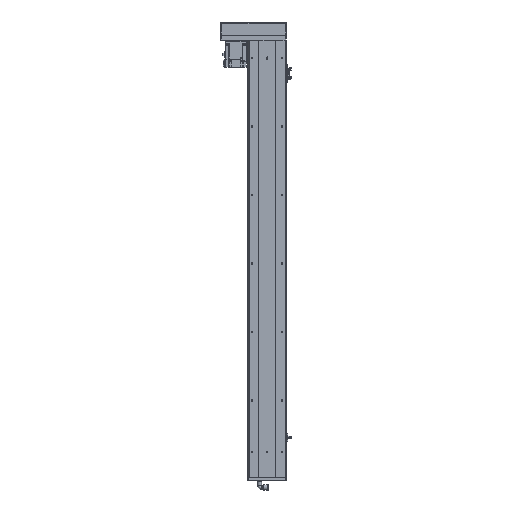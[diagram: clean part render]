
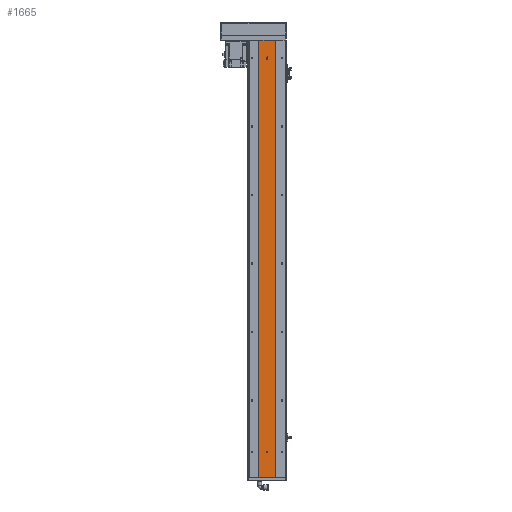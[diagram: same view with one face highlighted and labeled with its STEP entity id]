
A CAD part, top view. The second image highlights one B-rep face of the part: STEP entity #1665.
In plain terms, the highlighted planar face has unit normal (0, 0, 1).
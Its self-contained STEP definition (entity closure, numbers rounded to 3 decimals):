
#58 = DIRECTION ( 'NONE',  ( 1., 0., 0. ) ) ;
#922 = VERTEX_POINT ( 'NONE', #30408 ) ;
#965 = EDGE_LOOP ( 'NONE', ( #34112, #29538, #6565, #21685 ) ) ;
#1213 = VERTEX_POINT ( 'NONE', #9488 ) ;
#1322 = VERTEX_POINT ( 'NONE', #35203 ) ;
#1665 = ADVANCED_FACE ( 'NONE', ( #16048, #15148, #8383 ), #27553, .T. ) ;
#1697 = CARTESIAN_POINT ( 'NONE',  ( 24., -1277., 35.25 ) ) ;
#1736 = AXIS2_PLACEMENT_3D ( 'NONE', #30464, #21418, #9792 ) ;
#1880 = VECTOR ( 'NONE', #12832, 1000. ) ;
#1934 = DIRECTION ( 'NONE',  ( 0., 0., 1. ) ) ;
#3020 = CIRCLE ( 'NONE', #35998, 2.5 ) ;
#4135 = EDGE_CURVE ( 'NONE', #6456, #922, #32973, .T. ) ;
#4371 = EDGE_CURVE ( 'NONE', #5305, #1213, #35651, .T. ) ;
#4474 = EDGE_CURVE ( 'NONE', #27645, #1322, #14940, .T. ) ;
#4810 = VECTOR ( 'NONE', #7474, 1000. ) ;
#5305 = VERTEX_POINT ( 'NONE', #8634 ) ;
#6108 = LINE ( 'NONE', #26346, #25963 ) ;
#6176 = CARTESIAN_POINT ( 'NONE',  ( 24., -1277., 35.25 ) ) ;
#6456 = VERTEX_POINT ( 'NONE', #6768 ) ;
#6565 = ORIENTED_EDGE ( 'NONE', *, *, #16696, .T. ) ;
#6768 = CARTESIAN_POINT ( 'NONE',  ( -24., 0., 35.25 ) ) ;
#7255 = VECTOR ( 'NONE', #26161, 1000. ) ;
#7474 = DIRECTION ( 'NONE',  ( 0., 1., 0. ) ) ;
#7546 = AXIS2_PLACEMENT_3D ( 'NONE', #25113, #10473, #7589 ) ;
#7589 = DIRECTION ( 'NONE',  ( 1., 0., 0. ) ) ;
#7884 = ORIENTED_EDGE ( 'NONE', *, *, #25414, .F. ) ;
#8171 = CARTESIAN_POINT ( 'NONE',  ( 0., -1203., 35.25 ) ) ;
#8371 = EDGE_CURVE ( 'NONE', #1322, #5305, #30601, .T. ) ;
#8383 = FACE_OUTER_BOUND ( 'NONE', #965, .T. ) ;
#8634 = CARTESIAN_POINT ( 'NONE',  ( -2.5, -52., 35.25 ) ) ;
#9373 = CARTESIAN_POINT ( 'NONE',  ( 2.5, -54., 35.25 ) ) ;
#9488 = CARTESIAN_POINT ( 'NONE',  ( -2.5, -54., 35.25 ) ) ;
#9792 = DIRECTION ( 'NONE',  ( 1., 0., 0. ) ) ;
#10473 = DIRECTION ( 'NONE',  ( 0., 0., 1. ) ) ;
#10999 = VERTEX_POINT ( 'NONE', #17598 ) ;
#11603 = LINE ( 'NONE', #1697, #4810 ) ;
#12237 = CARTESIAN_POINT ( 'NONE',  ( -24., 0., 35.25 ) ) ;
#12832 = DIRECTION ( 'NONE',  ( 1., 0., 0. ) ) ;
#13032 = DIRECTION ( 'NONE',  ( 1., 0., 0. ) ) ;
#13071 = VERTEX_POINT ( 'NONE', #24807 ) ;
#13219 = ORIENTED_EDGE ( 'NONE', *, *, #4371, .F. ) ;
#14150 = CIRCLE ( 'NONE', #30521, 2.5 ) ;
#14836 = EDGE_CURVE ( 'NONE', #32296, #922, #11603, .T. ) ;
#14940 = LINE ( 'NONE', #9373, #7255 ) ;
#15130 = DIRECTION ( 'NONE',  ( 1., 0., 0. ) ) ;
#15148 = FACE_BOUND ( 'NONE', #36874, .T. ) ;
#16048 = FACE_BOUND ( 'NONE', #21179, .T. ) ;
#16696 = EDGE_CURVE ( 'NONE', #34155, #32296, #6108, .T. ) ;
#17598 = CARTESIAN_POINT ( 'NONE',  ( -2.5, -1203., 35.25 ) ) ;
#17993 = EDGE_CURVE ( 'NONE', #10999, #13071, #14150, .T. ) ;
#18132 = ORIENTED_EDGE ( 'NONE', *, *, #25002, .F. ) ;
#19359 = CARTESIAN_POINT ( 'NONE',  ( 0., -52., 35.25 ) ) ;
#19915 = VECTOR ( 'NONE', #22937, 1000. ) ;
#19921 = DIRECTION ( 'NONE',  ( 0., 0., 1. ) ) ;
#20377 = DIRECTION ( 'NONE',  ( 0., 0., 1. ) ) ;
#21179 = EDGE_LOOP ( 'NONE', ( #13219, #31504, #23551, #18132 ) ) ;
#21418 = DIRECTION ( 'NONE',  ( 0., 0., 1. ) ) ;
#21685 = ORIENTED_EDGE ( 'NONE', *, *, #14836, .T. ) ;
#21957 = CIRCLE ( 'NONE', #7546, 2.5 ) ;
#22937 = DIRECTION ( 'NONE',  ( 0., -1., 0. ) ) ;
#23551 = ORIENTED_EDGE ( 'NONE', *, *, #4474, .F. ) ;
#23777 = ORIENTED_EDGE ( 'NONE', *, *, #17993, .F. ) ;
#24807 = CARTESIAN_POINT ( 'NONE',  ( 2.5, -1203., 35.25 ) ) ;
#25002 = EDGE_CURVE ( 'NONE', #1213, #27645, #3020, .T. ) ;
#25113 = CARTESIAN_POINT ( 'NONE',  ( 0., -1203., 35.25 ) ) ;
#25414 = EDGE_CURVE ( 'NONE', #13071, #10999, #21957, .T. ) ;
#25533 = CARTESIAN_POINT ( 'NONE',  ( -2.5, -54., 35.25 ) ) ;
#25963 = VECTOR ( 'NONE', #15130, 1000. ) ;
#26161 = DIRECTION ( 'NONE',  ( 0., 1., 0. ) ) ;
#26346 = CARTESIAN_POINT ( 'NONE',  ( -24., -1277., 35.25 ) ) ;
#27553 = PLANE ( 'NONE',  #1736 ) ;
#27645 = VERTEX_POINT ( 'NONE', #33265 ) ;
#28583 = DIRECTION ( 'NONE',  ( 1., 0., 0. ) ) ;
#29538 = ORIENTED_EDGE ( 'NONE', *, *, #36297, .F. ) ;
#30408 = CARTESIAN_POINT ( 'NONE',  ( 24., 0., 35.25 ) ) ;
#30464 = CARTESIAN_POINT ( 'NONE',  ( -24., -1277., 35.25 ) ) ;
#30521 = AXIS2_PLACEMENT_3D ( 'NONE', #8171, #19921, #28583 ) ;
#30601 = CIRCLE ( 'NONE', #30648, 2.5 ) ;
#30648 = AXIS2_PLACEMENT_3D ( 'NONE', #19359, #1934, #13032 ) ;
#31504 = ORIENTED_EDGE ( 'NONE', *, *, #8371, .F. ) ;
#31636 = LINE ( 'NONE', #35560, #33846 ) ;
#32296 = VERTEX_POINT ( 'NONE', #6176 ) ;
#32783 = DIRECTION ( 'NONE',  ( 0., 1., 0. ) ) ;
#32973 = LINE ( 'NONE', #12237, #1880 ) ;
#33265 = CARTESIAN_POINT ( 'NONE',  ( 2.5, -54., 35.25 ) ) ;
#33846 = VECTOR ( 'NONE', #32783, 1000. ) ;
#34112 = ORIENTED_EDGE ( 'NONE', *, *, #4135, .F. ) ;
#34155 = VERTEX_POINT ( 'NONE', #35368 ) ;
#34672 = CARTESIAN_POINT ( 'NONE',  ( 0., -54., 35.25 ) ) ;
#35203 = CARTESIAN_POINT ( 'NONE',  ( 2.5, -52., 35.25 ) ) ;
#35368 = CARTESIAN_POINT ( 'NONE',  ( -24., -1277., 35.25 ) ) ;
#35560 = CARTESIAN_POINT ( 'NONE',  ( -24., -1277., 35.25 ) ) ;
#35651 = LINE ( 'NONE', #25533, #19915 ) ;
#35998 = AXIS2_PLACEMENT_3D ( 'NONE', #34672, #20377, #58 ) ;
#36297 = EDGE_CURVE ( 'NONE', #34155, #6456, #31636, .T. ) ;
#36874 = EDGE_LOOP ( 'NONE', ( #7884, #23777 ) ) ;
